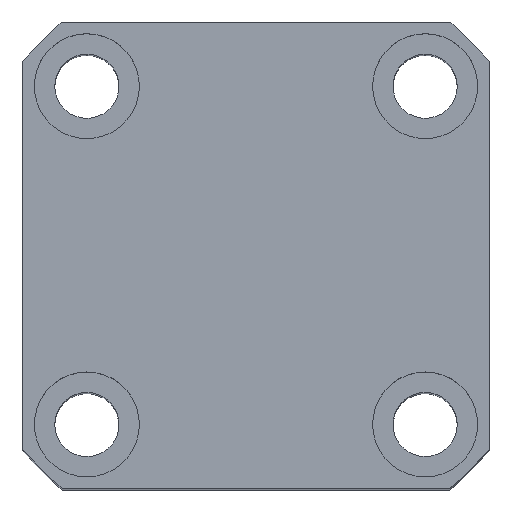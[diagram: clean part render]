
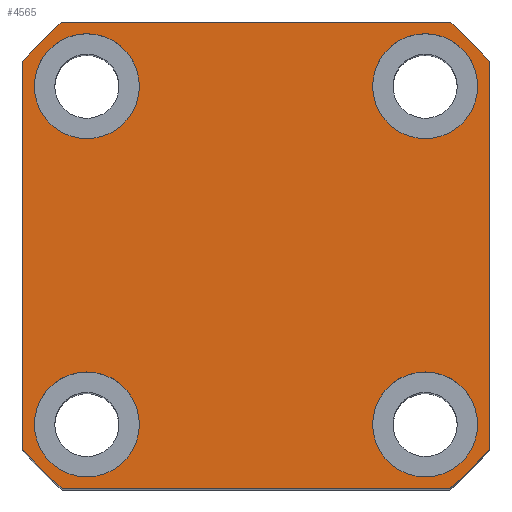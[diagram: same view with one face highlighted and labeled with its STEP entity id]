
A CAD part, top view. The second image highlights one B-rep face of the part: STEP entity #4565.
In plain terms, the highlighted planar face has unit normal (0, 0, 1).
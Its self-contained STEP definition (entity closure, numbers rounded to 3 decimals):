
#58 = ORIENTED_EDGE ( 'NONE', *, *, #12133, .F. ) ;
#190 = DIRECTION ( 'NONE',  ( 0., 0., 1. ) ) ;
#312 = VECTOR ( 'NONE', #658, 1000. ) ;
#335 = DIRECTION ( 'NONE',  ( 1., 0., 0. ) ) ;
#405 = CARTESIAN_POINT ( 'NONE',  ( -20., -29., 70. ) ) ;
#591 = AXIS2_PLACEMENT_3D ( 'NONE', #16668, #1191, #12337 ) ;
#658 = DIRECTION ( 'NONE',  ( 0., -1., 0. ) ) ;
#680 = ORIENTED_EDGE ( 'NONE', *, *, #10935, .F. ) ;
#759 = DIRECTION ( 'NONE',  ( 0., 0., 1. ) ) ;
#954 = FACE_BOUND ( 'NONE', #2001, .T. ) ;
#968 = VECTOR ( 'NONE', #5191, 1000. ) ;
#1026 = AXIS2_PLACEMENT_3D ( 'NONE', #5509, #5404, #16513 ) ;
#1191 = DIRECTION ( 'NONE',  ( 0., 0., 1. ) ) ;
#1268 = DIRECTION ( 'NONE',  ( -1., 0., 0. ) ) ;
#1310 = AXIS2_PLACEMENT_3D ( 'NONE', #3556, #759, #3500 ) ;
#1421 = AXIS2_PLACEMENT_3D ( 'NONE', #15745, #3360, #15813 ) ;
#1438 = CIRCLE ( 'NONE', #15155, 9. ) ;
#1531 = CIRCLE ( 'NONE', #13215, 9. ) ;
#1543 = CARTESIAN_POINT ( 'NONE',  ( 29., 29., 70. ) ) ;
#1642 = CARTESIAN_POINT ( 'NONE',  ( -38., 29., 70. ) ) ;
#1790 = CARTESIAN_POINT ( 'NONE',  ( -29., -29., 70. ) ) ;
#1927 = EDGE_CURVE ( 'NONE', #17459, #6259, #17383, .T. ) ;
#2001 = EDGE_LOOP ( 'NONE', ( #3269, #8064 ) ) ;
#2341 = ORIENTED_EDGE ( 'NONE', *, *, #8637, .T. ) ;
#2361 = CARTESIAN_POINT ( 'NONE',  ( 0., 0., 70. ) ) ;
#2376 = ORIENTED_EDGE ( 'NONE', *, *, #11798, .T. ) ;
#2434 = ORIENTED_EDGE ( 'NONE', *, *, #17904, .T. ) ;
#2455 = VERTEX_POINT ( 'NONE', #13587 ) ;
#2493 = PLANE ( 'NONE',  #8387 ) ;
#2554 = CARTESIAN_POINT ( 'NONE',  ( 0., 0., 70. ) ) ;
#2688 = CARTESIAN_POINT ( 'NONE',  ( -33.226, 40., 70. ) ) ;
#2694 = VERTEX_POINT ( 'NONE', #1642 ) ;
#2940 = CARTESIAN_POINT ( 'NONE',  ( -29., 29., 70. ) ) ;
#2944 = DIRECTION ( 'NONE',  ( 1., 0., 0. ) ) ;
#3143 = DIRECTION ( 'NONE',  ( 0., 0., 1. ) ) ;
#3262 = CIRCLE ( 'NONE', #1310, 9. ) ;
#3269 = ORIENTED_EDGE ( 'NONE', *, *, #15026, .F. ) ;
#3360 = DIRECTION ( 'NONE',  ( 0., 0., 1. ) ) ;
#3394 = EDGE_CURVE ( 'NONE', #2455, #11536, #4235, .T. ) ;
#3500 = DIRECTION ( 'NONE',  ( 1., 0., 0. ) ) ;
#3556 = CARTESIAN_POINT ( 'NONE',  ( 29., -29., 70. ) ) ;
#3820 = DIRECTION ( 'NONE',  ( 1., 0., 0. ) ) ;
#3886 = DIRECTION ( 'NONE',  ( 1., 0., 0. ) ) ;
#4214 = AXIS2_PLACEMENT_3D ( 'NONE', #2940, #190, #5727 ) ;
#4235 = CIRCLE ( 'NONE', #6955, 9. ) ;
#4490 = CARTESIAN_POINT ( 'NONE',  ( 40., -33.226, 70. ) ) ;
#4565 = ADVANCED_FACE ( 'NONE', ( #7723, #15790, #6827, #954, #7930 ), #2493, .T. ) ;
#4702 = CARTESIAN_POINT ( 'NONE',  ( 33.226, 40., 70. ) ) ;
#5191 = DIRECTION ( 'NONE',  ( 1., 0., 0. ) ) ;
#5233 = AXIS2_PLACEMENT_3D ( 'NONE', #2554, #12401, #13748 ) ;
#5283 = DIRECTION ( 'NONE',  ( 0., 0., 1. ) ) ;
#5292 = DIRECTION ( 'NONE',  ( 0., 0., 1. ) ) ;
#5334 = CARTESIAN_POINT ( 'NONE',  ( 40., 33.226, 70. ) ) ;
#5404 = DIRECTION ( 'NONE',  ( 0., 0., 1. ) ) ;
#5477 = CARTESIAN_POINT ( 'NONE',  ( -40., -33.226, 70. ) ) ;
#5509 = CARTESIAN_POINT ( 'NONE',  ( 0., 0., 70. ) ) ;
#5649 = ORIENTED_EDGE ( 'NONE', *, *, #13029, .T. ) ;
#5727 = DIRECTION ( 'NONE',  ( 1., 0., 0. ) ) ;
#5736 = ORIENTED_EDGE ( 'NONE', *, *, #17214, .T. ) ;
#5914 = CARTESIAN_POINT ( 'NONE',  ( 40., 33.226, 70. ) ) ;
#6185 = AXIS2_PLACEMENT_3D ( 'NONE', #8746, #14247, #10220 ) ;
#6259 = VERTEX_POINT ( 'NONE', #17976 ) ;
#6416 = EDGE_CURVE ( 'NONE', #8591, #14677, #17953, .T. ) ;
#6486 = CARTESIAN_POINT ( 'NONE',  ( -29., 29., 70. ) ) ;
#6612 = CARTESIAN_POINT ( 'NONE',  ( -20., 29., 70. ) ) ;
#6827 = FACE_BOUND ( 'NONE', #14083, .T. ) ;
#6955 = AXIS2_PLACEMENT_3D ( 'NONE', #8444, #14046, #6963 ) ;
#6963 = DIRECTION ( 'NONE',  ( 1., 0., 0. ) ) ;
#7285 = CIRCLE ( 'NONE', #14407, 52. ) ;
#7425 = CARTESIAN_POINT ( 'NONE',  ( 38., -29., 70. ) ) ;
#7723 = FACE_BOUND ( 'NONE', #12162, .T. ) ;
#7930 = FACE_OUTER_BOUND ( 'NONE', #9720, .T. ) ;
#7935 = ORIENTED_EDGE ( 'NONE', *, *, #9586, .F. ) ;
#8064 = ORIENTED_EDGE ( 'NONE', *, *, #9021, .F. ) ;
#8297 = EDGE_CURVE ( 'NONE', #17463, #11640, #14504, .T. ) ;
#8387 = AXIS2_PLACEMENT_3D ( 'NONE', #2361, #5283, #3820 ) ;
#8444 = CARTESIAN_POINT ( 'NONE',  ( 29., -29., 70. ) ) ;
#8591 = VERTEX_POINT ( 'NONE', #4490 ) ;
#8608 = ORIENTED_EDGE ( 'NONE', *, *, #17871, .T. ) ;
#8637 = EDGE_CURVE ( 'NONE', #14677, #16715, #10472, .T. ) ;
#8660 = ORIENTED_EDGE ( 'NONE', *, *, #3394, .F. ) ;
#8746 = CARTESIAN_POINT ( 'NONE',  ( 0., 0., 70. ) ) ;
#8898 = VECTOR ( 'NONE', #1268, 1000. ) ;
#9021 = EDGE_CURVE ( 'NONE', #11296, #13622, #14638, .T. ) ;
#9175 = CIRCLE ( 'NONE', #4214, 9. ) ;
#9311 = EDGE_CURVE ( 'NONE', #2694, #15972, #9175, .T. ) ;
#9586 = EDGE_CURVE ( 'NONE', #15972, #2694, #1531, .T. ) ;
#9720 = EDGE_LOOP ( 'NONE', ( #2341, #5649, #13603, #8608, #2434, #5736, #2376, #18013 ) ) ;
#10220 = DIRECTION ( 'NONE',  ( 1., 0., 0. ) ) ;
#10472 = CIRCLE ( 'NONE', #6185, 52. ) ;
#10621 = VERTEX_POINT ( 'NONE', #17406 ) ;
#10792 = ORIENTED_EDGE ( 'NONE', *, *, #9311, .F. ) ;
#10873 = CIRCLE ( 'NONE', #17886, 9. ) ;
#10932 = EDGE_LOOP ( 'NONE', ( #58, #14501 ) ) ;
#10935 = EDGE_CURVE ( 'NONE', #11536, #2455, #3262, .T. ) ;
#11080 = LINE ( 'NONE', #13761, #8898 ) ;
#11295 = DIRECTION ( 'NONE',  ( 0., 0., 1. ) ) ;
#11296 = VERTEX_POINT ( 'NONE', #12692 ) ;
#11536 = VERTEX_POINT ( 'NONE', #7425 ) ;
#11640 = VERTEX_POINT ( 'NONE', #405 ) ;
#11798 = EDGE_CURVE ( 'NONE', #10621, #8591, #16134, .T. ) ;
#11874 = CARTESIAN_POINT ( 'NONE',  ( -40., 33.226, 70. ) ) ;
#12133 = EDGE_CURVE ( 'NONE', #11640, #17463, #10873, .T. ) ;
#12162 = EDGE_LOOP ( 'NONE', ( #680, #8660 ) ) ;
#12235 = CARTESIAN_POINT ( 'NONE',  ( -33.226, -40., 70. ) ) ;
#12337 = DIRECTION ( 'NONE',  ( 1., 0., 0. ) ) ;
#12401 = DIRECTION ( 'NONE',  ( 0., 0., 1. ) ) ;
#12692 = CARTESIAN_POINT ( 'NONE',  ( 20., 29., 70. ) ) ;
#13029 = EDGE_CURVE ( 'NONE', #16715, #17459, #11080, .T. ) ;
#13215 = AXIS2_PLACEMENT_3D ( 'NONE', #6486, #14806, #16278 ) ;
#13587 = CARTESIAN_POINT ( 'NONE',  ( 20., -29., 70. ) ) ;
#13603 = ORIENTED_EDGE ( 'NONE', *, *, #1927, .T. ) ;
#13622 = VERTEX_POINT ( 'NONE', #16785 ) ;
#13639 = CARTESIAN_POINT ( 'NONE',  ( 0., 0., 70. ) ) ;
#13748 = DIRECTION ( 'NONE',  ( 1., 0., 0. ) ) ;
#13761 = CARTESIAN_POINT ( 'NONE',  ( -33.226, 40., 70. ) ) ;
#13835 = LINE ( 'NONE', #17589, #968 ) ;
#14015 = VECTOR ( 'NONE', #15702, 1000. ) ;
#14046 = DIRECTION ( 'NONE',  ( 0., 0., 1. ) ) ;
#14083 = EDGE_LOOP ( 'NONE', ( #7935, #10792 ) ) ;
#14247 = DIRECTION ( 'NONE',  ( 0., 0., 1. ) ) ;
#14407 = AXIS2_PLACEMENT_3D ( 'NONE', #13639, #5292, #3886 ) ;
#14501 = ORIENTED_EDGE ( 'NONE', *, *, #8297, .F. ) ;
#14504 = CIRCLE ( 'NONE', #591, 9. ) ;
#14638 = CIRCLE ( 'NONE', #1421, 9. ) ;
#14677 = VERTEX_POINT ( 'NONE', #5334 ) ;
#14806 = DIRECTION ( 'NONE',  ( 0., 0., 1. ) ) ;
#15026 = EDGE_CURVE ( 'NONE', #13622, #11296, #1438, .T. ) ;
#15155 = AXIS2_PLACEMENT_3D ( 'NONE', #1543, #11295, #2944 ) ;
#15702 = DIRECTION ( 'NONE',  ( 0., 1., 0. ) ) ;
#15745 = CARTESIAN_POINT ( 'NONE',  ( 29., 29., 70. ) ) ;
#15790 = FACE_BOUND ( 'NONE', #10932, .T. ) ;
#15813 = DIRECTION ( 'NONE',  ( 1., 0., 0. ) ) ;
#15972 = VERTEX_POINT ( 'NONE', #6612 ) ;
#16134 = CIRCLE ( 'NONE', #5233, 52. ) ;
#16278 = DIRECTION ( 'NONE',  ( 1., 0., 0. ) ) ;
#16513 = DIRECTION ( 'NONE',  ( 1., 0., 0. ) ) ;
#16668 = CARTESIAN_POINT ( 'NONE',  ( -29., -29., 70. ) ) ;
#16715 = VERTEX_POINT ( 'NONE', #4702 ) ;
#16785 = CARTESIAN_POINT ( 'NONE',  ( 38., 29., 70. ) ) ;
#17127 = LINE ( 'NONE', #11874, #312 ) ;
#17214 = EDGE_CURVE ( 'NONE', #17906, #10621, #13835, .T. ) ;
#17383 = CIRCLE ( 'NONE', #1026, 52. ) ;
#17405 = VERTEX_POINT ( 'NONE', #5477 ) ;
#17406 = CARTESIAN_POINT ( 'NONE',  ( 33.226, -40., 70. ) ) ;
#17459 = VERTEX_POINT ( 'NONE', #2688 ) ;
#17463 = VERTEX_POINT ( 'NONE', #17882 ) ;
#17589 = CARTESIAN_POINT ( 'NONE',  ( -33.226, -40., 70. ) ) ;
#17871 = EDGE_CURVE ( 'NONE', #6259, #17405, #17127, .T. ) ;
#17882 = CARTESIAN_POINT ( 'NONE',  ( -38., -29., 70. ) ) ;
#17886 = AXIS2_PLACEMENT_3D ( 'NONE', #1790, #3143, #335 ) ;
#17904 = EDGE_CURVE ( 'NONE', #17405, #17906, #7285, .T. ) ;
#17906 = VERTEX_POINT ( 'NONE', #12235 ) ;
#17953 = LINE ( 'NONE', #5914, #14015 ) ;
#17976 = CARTESIAN_POINT ( 'NONE',  ( -40., 33.226, 70. ) ) ;
#18013 = ORIENTED_EDGE ( 'NONE', *, *, #6416, .T. ) ;
